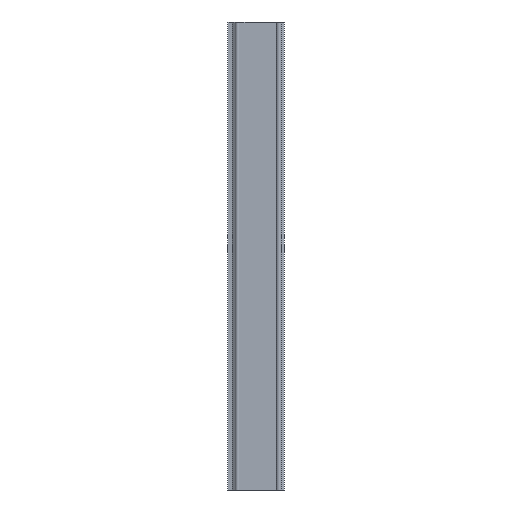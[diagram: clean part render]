
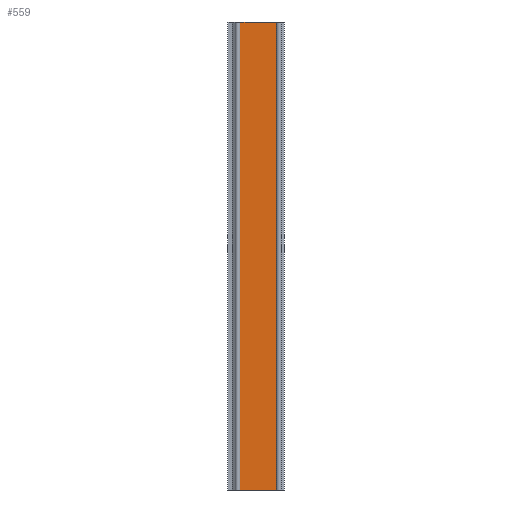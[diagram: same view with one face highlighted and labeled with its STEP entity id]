
A CAD part, front view. The second image highlights one B-rep face of the part: STEP entity #559.
In plain terms, the highlighted planar face has unit normal (0, -1, 0).
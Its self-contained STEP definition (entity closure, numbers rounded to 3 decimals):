
#43 = VERTEX_POINT ( 'NONE', #904 ) ;
#125 = DIRECTION ( 'NONE',  ( 0., 1., 0. ) ) ;
#160 = CARTESIAN_POINT ( 'NONE',  ( 3.35, 5.3, 100. ) ) ;
#308 = LINE ( 'NONE', #763, #460 ) ;
#317 = EDGE_CURVE ( 'NONE', #1170, #1311, #308, .T. ) ;
#342 = AXIS2_PLACEMENT_3D ( 'NONE', #160, #125, #606 ) ;
#366 = EDGE_CURVE ( 'NONE', #43, #1023, #1141, .T. ) ;
#433 = CARTESIAN_POINT ( 'NONE',  ( 11.15, 5.3, 100. ) ) ;
#434 = CARTESIAN_POINT ( 'NONE',  ( 3.35, 5.3, 100. ) ) ;
#449 = LINE ( 'NONE', #433, #578 ) ;
#450 = DIRECTION ( 'NONE',  ( 1., 0., 0. ) ) ;
#460 = VECTOR ( 'NONE', #1230, 1000. ) ;
#497 = FACE_OUTER_BOUND ( 'NONE', #854, .T. ) ;
#503 = CARTESIAN_POINT ( 'NONE',  ( 11.15, 5.3, 100. ) ) ;
#559 = ADVANCED_FACE ( 'NONE', ( #497 ), #1288, .F. ) ;
#578 = VECTOR ( 'NONE', #798, 1000. ) ;
#606 = DIRECTION ( 'NONE',  ( 0., 0., 1. ) ) ;
#632 = ORIENTED_EDGE ( 'NONE', *, *, #772, .F. ) ;
#763 = CARTESIAN_POINT ( 'NONE',  ( 3.35, 5.3, 0. ) ) ;
#772 = EDGE_CURVE ( 'NONE', #1023, #1311, #449, .T. ) ;
#782 = CARTESIAN_POINT ( 'NONE',  ( 3.35, 5.3, 100. ) ) ;
#798 = DIRECTION ( 'NONE',  ( 0., 0., -1. ) ) ;
#811 = VECTOR ( 'NONE', #1247, 1000. ) ;
#854 = EDGE_LOOP ( 'NONE', ( #1240, #632, #1177, #1391 ) ) ;
#904 = CARTESIAN_POINT ( 'NONE',  ( 3.35, 5.3, 100. ) ) ;
#1023 = VERTEX_POINT ( 'NONE', #503 ) ;
#1126 = CARTESIAN_POINT ( 'NONE',  ( 3.35, 5.3, 0. ) ) ;
#1139 = LINE ( 'NONE', #782, #811 ) ;
#1141 = LINE ( 'NONE', #434, #1432 ) ;
#1170 = VERTEX_POINT ( 'NONE', #1126 ) ;
#1177 = ORIENTED_EDGE ( 'NONE', *, *, #366, .F. ) ;
#1181 = EDGE_CURVE ( 'NONE', #43, #1170, #1139, .T. ) ;
#1230 = DIRECTION ( 'NONE',  ( 1., 0., 0. ) ) ;
#1240 = ORIENTED_EDGE ( 'NONE', *, *, #317, .T. ) ;
#1247 = DIRECTION ( 'NONE',  ( 0., 0., -1. ) ) ;
#1288 = PLANE ( 'NONE',  #342 ) ;
#1311 = VERTEX_POINT ( 'NONE', #1405 ) ;
#1391 = ORIENTED_EDGE ( 'NONE', *, *, #1181, .T. ) ;
#1405 = CARTESIAN_POINT ( 'NONE',  ( 11.15, 5.3, 0. ) ) ;
#1432 = VECTOR ( 'NONE', #450, 1000. ) ;
